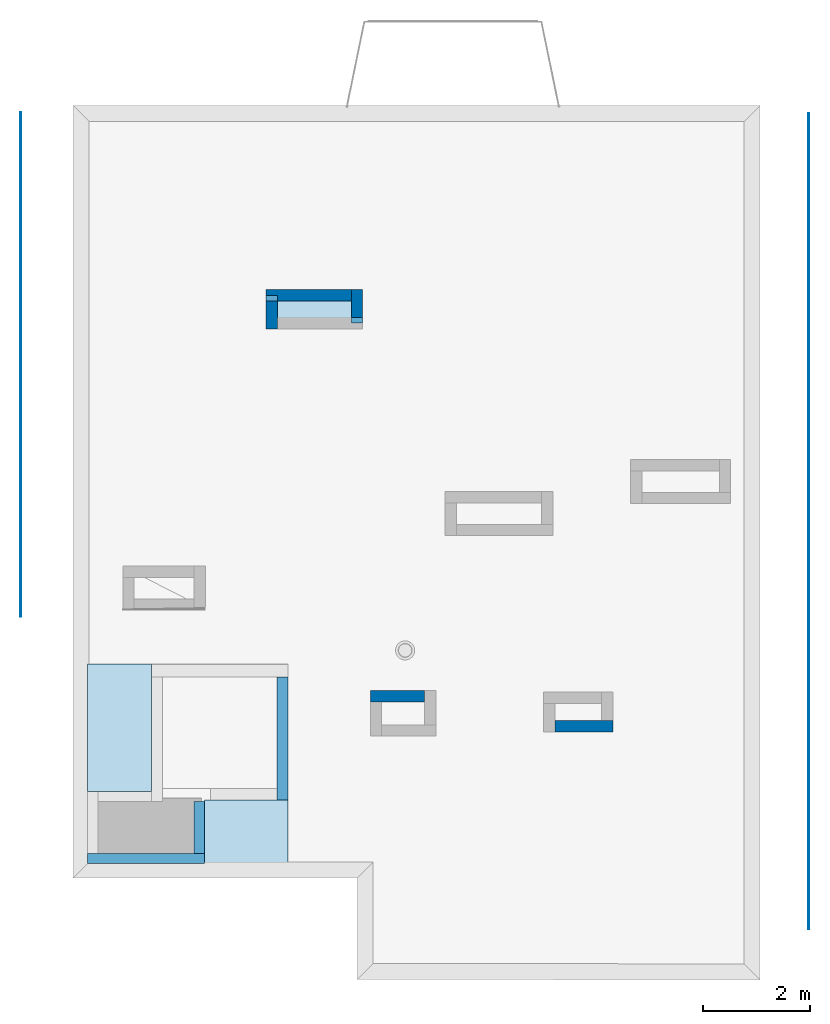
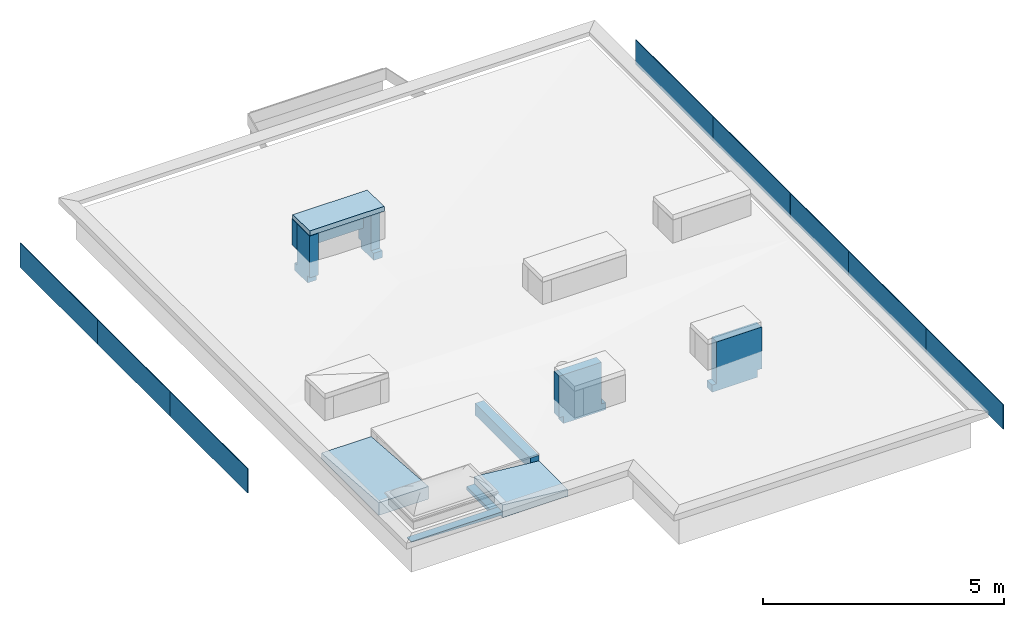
# One storey, part 2 of 6: 16 building element parts, 8 walls, 3 roofs, 2 elements without a shape of their own.
"""IFC2X3 building model written with IfcOpenShell, lengths in millimetres."""

from ifc_helpers import new_model, entity, si_unit, converted_unit, direction, frame, frame_2d, origin, origin_2d_with_axis, place, context, subcontext, project, spatial, rectangle, extrude, faceted_brep, material, layer, layer_set, type_object, element, aggregate, save


model = new_model("IFC2X3")

# Units and contexts
model_context = context("Model", 3, precision=0.01, world=origin(), true_north=direction((6.123233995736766e-17, 1.0)))
plan_context = context("Plan", 3, precision=0.01, world=origin(), true_north=direction((6.123233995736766e-17, 1.0)))
body_context = subcontext(model_context, "Body", "Model", "MODEL_VIEW")
ifc_project = project(units=[si_unit("LENGTHUNIT", "METRE", prefix="MILLI"), converted_unit("PLANEANGLEUNIT", "DEGREE", entity("IfcPlaneAngleMeasure", 0.017453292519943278), si_unit("PLANEANGLEUNIT", "RADIAN"), dimensions=[0, 0, 0, 0, 0, 0, 0]), si_unit("AREAUNIT", "SQUARE_METRE")], contexts=[model_context, plan_context])

# Site, building, storey
site_placement = place(None, origin())
site = spatial("IfcSite", under=ifc_project, at=site_placement, Name="Default", CompositionType="ELEMENT")
building_placement = place(site_placement, origin())
building = spatial("IfcBuilding", under=site, at=building_placement, CompositionType="ELEMENT")
storey_placement = place(building_placement, frame((0.0, 0.0, 16500.0)))
storey = spatial("IfcBuildingStorey", under=building, at=storey_placement, Name="Parapet", CompositionType="ELEMENT", Elevation=16499.999999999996)

# Walls
ifc_material_1 = material(Name="_K. Katusekate. Rullmaterjal. SBS")
ifc_layer_1 = layer(ifc_material_1, 10.0)
ifc_material_2 = material(Name="_K. Soojustus. Mineraalvill")
ifc_layer_2 = layer(ifc_material_2, 30.0)
ifc_material_3 = material(Name="_K. Soojustus. EPS")
ifc_layer_3 = layer(ifc_material_3, 170.0)
ifc_layer_set_1 = layer_set([ifc_layer_1, ifc_layer_2, ifc_layer_3], Name="Basic Wall:VS-liftimüts")
wall_type_1 = type_object("IfcWallType", Name="Basic Wall:VS-liftimüts", PredefinedType="STANDARD", material=ifc_layer_set_1)
wall_1_placement = place(storey_placement, frame((3444.9935349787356, 5189.9984336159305, -313.790204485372), z_axis=(0.0, 0.0, 1.0), x_axis=(0.0, -1.0, 0.0)))
element("IfcWall", 1, at=wall_1_placement, inside=storey, type_object=wall_type_1, Name="Basic Wall:VS-liftimüts", ObjectType="Basic Wall:VS-liftimüts", context=body_context, shape_type="Brep", body=[
    faceted_brep([(2290.0045776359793, -105.0, 303.79020448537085), (2080.0045776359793, -105.0, 303.79020448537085), (0.0, -105.0, 303.79020448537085), (0.0, -105.0, 148.79020448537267), (0.0, -105.0, 7.287625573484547), (1879.01675181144, -105.0, 7.287625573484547), (2080.0045776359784, -105.0, 14.32030109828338), (2290.0045776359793, -105.0, 21.668317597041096), (0.0, 105.0, 303.79020448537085), (2290.0045776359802, 105.0, 303.79020448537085), (2290.00457763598, 105.0, 21.668317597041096), (1670.742672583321, 105.0, 0.0), (0.0, 105.0, 0.0)], [[[0, 1, 2, 3, 4, 5, 6, 7]], [[8, 9, 10, 11, 12]], [[2, 1, 0, 9, 8]], [[2, 8, 12, 4, 3]], [[9, 0, 7, 10]], [[11, 5, 4, 12]], [[5, 11, 10, 7, 6]]]),
])
ifc_layer_4 = layer(ifc_material_1, 10.0)
ifc_layer_5 = layer(ifc_material_2, 100.0)
ifc_material_4 = material(Name="_K. Müüritis. Väikeplokk. Kergkruusplokk")
ifc_layer_6 = layer(ifc_material_4, 100.0)
ifc_layer_set_2 = layer_set([ifc_layer_4, ifc_layer_5, ifc_layer_6], Name="Basic Wall:VS-Šahtimüts")
wall_type_2 = type_object("IfcWallType", Name="Basic Wall:VS-Šahtimüts", PredefinedType="STANDARD", material=ifc_layer_set_2)
wall_2_placement = place(storey_placement, frame((3140.0, 12315.0, -326.7114315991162)))
element("IfcWall", 2, at=wall_2_placement, inside=storey, type_object=wall_type_2, Name="Basic Wall:VS-Šahtimüts", ObjectType="Basic Wall:VS-Šahtimüts", context=body_context, shape_type="Brep", body=[
    faceted_brep([(1590.0, -105.0, 666.7101660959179), (210.0, -105.0, 666.7101660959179), (10.0, -105.0, 666.7101660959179), (0.0, -105.0, 666.7101660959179), (0.0, -105.0, 6.051959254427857), (147.47030604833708, -105.0, 0.0), (210.0, -105.0, 0.0), (1110.0, -105.0, 0.0), (1590.0, -105.0, 0.0), (1590.0, -105.0, 652.3452344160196), (0.0, 105.0, 666.7101660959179), (1590.0, 105.0, 666.7101660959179), (1590.0, 105.0, 8.866606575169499), (0.0, 105.0, 8.86660657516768), (1590.0, 95.0, 666.7101660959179), (0.0, 38.33684850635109, 6.051959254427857)], [[[0, 1, 2, 3, 4, 5, 6, 7, 8, 9]], [[10, 11, 12, 13]], [[3, 2, 1, 0, 14, 11, 10]], [[11, 14, 0, 9, 8, 12]], [[15, 5, 4]], [[5, 15, 13, 12, 8, 7, 6]], [[3, 10, 13, 15, 4]]]),
])
wall_3_placement = place(storey_placement, frame((3245.0, 11690.0, -895.0012655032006), z_axis=(0.0, 0.0, 1.0), x_axis=(0.0, 1.0, 0.0)))
element("IfcWall", 3, at=wall_3_placement, inside=storey, type_object=wall_type_2, Name="Basic Wall:VS-Šahtimüts", ObjectType="Basic Wall:VS-Šahtimüts", context=body_context, shape_type="Brep", body=[
    faceted_brep([(86.0, -105.0, 0.0), (625.0, -105.0, 0.0), (625.0, -105.0, 180.99997782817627), (520.0, -105.0, 180.99997782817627), (520.0, -105.0, 1235.0), (210.0, -105.0, 1235.0), (0.0, -105.0, 1235.0), (0.0, -105.0, 180.99997782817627), (86.0, -105.0, 180.99997782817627), (86.0, 105.0, 0.0), (86.0, 105.0, 180.99997782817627), (0.0, 105.0, 180.99997782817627), (0.0, 105.0, 1235.0), (520.0, 105.0, 1235.0), (520.0, 105.0, 574.3417931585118), (520.0, 105.0, 180.99997782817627), (625.0, 105.0, 180.99997782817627), (625.0, 105.0, 0.0)], [[[0, 1, 2, 3, 4, 5, 6, 7, 8]], [[9, 10, 11, 12, 13, 14, 15, 16, 17]], [[1, 0, 9, 17]], [[6, 5, 4, 13, 12]], [[2, 1, 17, 16]], [[15, 3, 2, 16]], [[3, 15, 14, 13, 4]], [[0, 8, 10, 9]], [[7, 11, 10, 8]], [[6, 12, 11, 7]]]),
])
wall_4_placement = place(storey_placement, frame((4835.0, 12420.0, -895.0), z_axis=(0.0, 0.0, 1.0), x_axis=(0.0, -1.0, 0.0)))
element("IfcWall", 4, at=wall_4_placement, inside=storey, type_object=wall_type_2, Name="Basic Wall:VS-Šahtimüts", ObjectType="Basic Wall:VS-Šahtimüts", context=body_context, shape_type="Brep", body=[
    faceted_brep([(105.0, -105.0, 0.0), (625.0, -105.0, 0.0), (625.0, -105.0, 180.9987123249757), (520.0, -105.0, 180.9987123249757), (520.0, -105.0, 1235.0), (210.0, -105.0, 1235.0), (0.0, -105.0, 1235.0), (0.0, -105.0, 577.1551749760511), (0.0, -105.0, 180.9987123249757), (105.0, -105.0, 180.9987123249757), (105.0, 105.0, 0.0), (105.0, 105.0, 180.9987123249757), (0.0, 105.0, 180.9987123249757), (0.0, 105.0, 1235.0), (520.0, 105.0, 1235.0), (520.0, 105.0, 180.9987123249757), (625.0, 105.0, 180.9987123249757), (625.0, 105.0, 0.0)], [[[0, 1, 2, 3, 4, 5, 6, 7, 8, 9]], [[10, 11, 12, 13, 14, 15, 16, 17]], [[1, 0, 10, 17]], [[6, 5, 4, 14, 13]], [[0, 9, 11, 10]], [[8, 12, 11, 9]], [[2, 1, 17, 16]], [[15, 3, 2, 16]], [[3, 15, 14, 4]], [[6, 13, 12, 8, 7]]]),
])
wall_5_placement = place(storey_placement, frame((5084.997197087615, 4835.0, -895.0012655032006)))
element("IfcWall", 5, at=wall_5_placement, inside=storey, type_object=wall_type_2, Name="Basic Wall:VS-Šahtimüts", ObjectType="Basic Wall:VS-Šahtimüts", context=body_context, shape_type="Brep", body=[
    faceted_brep([(105.0, -105.0, 0.0), (1120.0, -105.0, 0.0), (1120.0, -105.0, 180.99997782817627), (1015.0, -105.0, 180.99997782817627), (1015.0, -105.0, 1235.0), (210.0, -105.0, 1235.0), (0.0, -105.0, 1235.0), (0.0, -105.0, 180.99997782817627), (105.0, -105.0, 180.99997782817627), (105.0, 105.0, 0.0), (105.0, 105.0, 180.99997782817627), (0.0, 105.0, 180.99997782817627), (0.0, 105.0, 1235.0), (1015.0, 105.0, 1235.0), (1015.0, 105.0, 180.99997782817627), (1120.0, 105.0, 180.99997782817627), (1120.0, 105.0, 0.0)], [[[0, 1, 2, 3, 4, 5, 6, 7, 8]], [[9, 10, 11, 12, 13, 14, 15, 16]], [[1, 0, 9, 16]], [[6, 5, 4, 13, 12]], [[0, 8, 10, 9]], [[7, 11, 10, 8]], [[6, 12, 11, 7]], [[2, 1, 16, 15]], [[14, 3, 2, 15]], [[3, 14, 13, 4]]]),
])
wall_6_placement = place(storey_placement, frame((9610.0, 4275.0, -895.0), z_axis=(0.0, 0.0, 1.0), x_axis=(-1.0, 0.0, 0.0)))
element("IfcWall", 6, at=wall_6_placement, inside=storey, type_object=wall_type_2, Name="Basic Wall:VS-Šahtimüts", ObjectType="Basic Wall:VS-Šahtimüts", context=body_context, shape_type="Brep", body=[
    faceted_brep([(105.0, -105.0, 0.0), (1187.0, -105.0, 0.0), (1187.0, -105.0, 180.9987123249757), (1082.0, -105.0, 180.9987123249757), (1082.0, -105.0, 1235.0), (210.0, -105.0, 1235.0), (0.0, -105.0, 1235.0), (0.0, -105.0, 180.9987123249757), (105.0, -105.0, 180.9987123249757), (105.0, 105.0, 0.0), (105.0, 105.0, 180.9987123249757), (0.0, 105.0, 180.9987123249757), (0.0, 105.0, 1235.0), (1082.0, 105.0, 1235.0), (1082.0, 105.0, 180.9987123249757), (1187.0, 105.0, 180.9987123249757), (1187.0, 105.0, 0.0)], [[[0, 1, 2, 3, 4, 5, 6, 7, 8]], [[9, 10, 11, 12, 13, 14, 15, 16]], [[1, 0, 9, 16]], [[6, 5, 4, 13, 12]], [[2, 1, 16, 15]], [[0, 8, 10, 9]], [[3, 14, 13, 4]], [[6, 12, 11, 7]], [[14, 3, 2, 15]], [[7, 11, 10, 8]]]),
])
ifc_layer_7 = layer(ifc_material_4, 190.00000000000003)
ifc_layer_set_3 = layer_set([ifc_layer_7], Name="Basic Wall:SL")
wall_type_3 = type_object("IfcWallType", Name="Basic Wall:SL", PredefinedType="STANDARD", material=ifc_layer_set_3)
wall_7_placement = place(storey_placement, frame((1990.0, 1804.9697985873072, -257.1304903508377), z_axis=(0.0, 0.0, 1.0), x_axis=(-1.0, 0.0, 0.0)))
element("IfcWall", 7, at=wall_7_placement, inside=storey, type_object=wall_type_3, Name="Basic Wall:SL", ObjectType="Basic Wall:SL", context=body_context, shape_type="Brep", body=[
    faceted_brep([(2180.0, -95.0, 92.13049035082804), (1990.0, -95.0, 92.13049035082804), (190.0, -95.0, 92.13049035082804), (0.0, -95.0, 92.13049035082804), (0.0, -95.0, 0.0), (72.71108853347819, -95.0, 0.0), (190.0, -95.0, 4.070274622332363), (1990.0, -95.0, 66.53563668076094), (2180.0, -95.0, 73.12920267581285), (0.0, 95.0, 92.13049035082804), (2180.0, 95.0, 92.13049035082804), (2180.0, 95.0, 73.12920267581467), (264.2551244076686, 95.0, 6.648205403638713), (0.0, 95.0, 6.648205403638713)], [[[0, 1, 2, 3, 4, 5, 6, 7, 8]], [[9, 10, 11, 12, 13]], [[3, 2, 1, 0, 10, 9]], [[10, 0, 8, 11]], [[3, 9, 13, 4]], [[5, 12, 11, 8, 7, 6]], [[12, 5, 4, 13]]]),
])
wall_8_placement = place(storey_placement, frame((1895.0, 2870.030201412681, -259.65378172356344), z_axis=(0.0, 0.0, 1.0), x_axis=(0.0, -1.0, 0.0)))
element("IfcWall", 8, at=wall_8_placement, inside=storey, type_object=wall_type_3, Name="Basic Wall:SL", ObjectType="Basic Wall:SL", context=body_context, shape_type="Brep", body=[
    faceted_brep([(970.0604028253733, -95.0, 94.65378172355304), (0.0, -95.0, 94.65378172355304), (0.0, -95.0, 6.593565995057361), (70.03020141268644, -95.0, 6.593565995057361), (970.0604028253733, -95.0, 6.593565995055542), (0.0, 95.0, 94.65378172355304), (970.0604028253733, 95.0, 94.65378172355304), (970.0604028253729, 95.0, 2.523291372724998), (897.9469027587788, 95.0, 0.0), (0.0, 95.0, 0.0), (970.0604028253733, 22.288911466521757, 2.523291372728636)], [[[0, 1, 2, 3, 4]], [[5, 6, 7, 8, 9]], [[1, 0, 6, 5]], [[1, 5, 9, 2]], [[6, 0, 4, 10, 7]], [[8, 10, 4, 3, 2, 9]], [[10, 8, 7]]]),
])

# Roofs
ifc_layer_8 = layer(ifc_material_1, 10.0)
ifc_layer_9 = layer(ifc_material_2, 100.0)
ifc_material_5 = material(Name="_K. Ehitusplaat. Vineer. Veekindel")
ifc_layer_10 = layer(ifc_material_5, 15.0)
ifc_layer_set_4 = layer_set([ifc_layer_8, ifc_layer_9, ifc_layer_10], Name="Basic Roof:KL-01 müts")
type_product_1 = type_object("IfcTypeProduct", Name="Basic Roof:KL-01 müts")
roof_1_placement = place(storey_placement, frame((3150.0, 11700.0, 320.0)))
element("IfcRoof", 9, at=roof_1_placement, inside=storey, type_object=type_product_1, material=ifc_layer_set_4, Name="Basic Roof:KL-01 müts", ObjectType="Basic Roof:KL-01 müts", ShapeType="NOTDEFINED", context=body_context, shape_type="Brep", body=[
    faceted_brep([(1779.9727515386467, 710.0, 125.0), (1779.9727515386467, 710.0, 0.0), (1580.0, 710.0, 0.0), (1580.0, 710.0, 19.998734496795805), (0.0, 710.0, 19.998734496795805), (0.0, 710.0, 125.0), (0.0, 0.0, 20.0), (0.0, 0.0, 145.0), (0.0, 510.0, 19.998734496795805), (0.0, 510.0, 5.633802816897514), (200.0, 0.0, 20.0), (1779.9727515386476, 0.0, 20.0), (1779.9727515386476, 0.0, 145.0), (1779.9727515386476, 200.0, 20.0), (1779.9727515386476, 200.0, 14.36619718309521), (200.0, 200.0, 14.36619718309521), (1580.0, 510.0, 5.633802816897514), (1580.0, 510.0, 19.998734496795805), (200.0, 200.0, 20.0)], [[[0, 1, 2, 3, 4, 5]], [[6, 7, 5, 4, 8, 9]], [[7, 6, 10, 11, 12]], [[1, 0, 12, 11, 13, 14]], [[5, 7, 12, 0]], [[2, 1, 14, 15, 10, 6, 9, 16]], [[8, 17, 16, 9]], [[17, 8, 4, 3]], [[16, 17, 3, 2]], [[13, 18, 15, 14]], [[10, 18, 13, 11]], [[18, 10, 15]]]),
])
ifc_layer_11 = layer(ifc_material_1, 10.0)
ifc_layer_12 = layer(ifc_material_2, 30.0)
ifc_layer_13 = layer(ifc_material_3, 250.00000000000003)
ifc_layer_14 = layer(ifc_material_3, 30.0)
ifc_layer_set_5 = layer_set([ifc_layer_11, ifc_layer_12, ifc_layer_13, ifc_layer_14], Name="Basic Roof:KL-05 3")
type_product_2 = type_object("IfcTypeProduct", Name="Basic Roof:KL-05 3")
roof_2_placement = place(storey_placement, frame((-190.0, 3060.0, -320.0)))
element("IfcRoof", 10, at=roof_2_placement, inside=storey, type_object=type_product_2, material=ifc_layer_set_5, Name="Basic Roof:KL-05 3", ObjectType="Basic Roof:KL-05 3", ShapeType="NOTDEFINED", context=body_context, shape_type="Brep", body=[
    faceted_brep([(0.0, 2374.995381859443, 0.0), (1189.9935349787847, 2374.995381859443, 0.0), (1189.9935349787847, 0.0, 0.0), (0.0, 0.0, 0.0), (1189.9935349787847, 2374.995381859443, 140.0), (1189.9935349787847, 2374.995381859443, 94.70239176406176), (0.0, 2374.995381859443, 135.99871232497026), (0.0, 2374.995381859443, 140.0), (1189.9935349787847, 0.0, 320.0), (1189.9935349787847, 0.0, 310.0), (1189.9935349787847, 0.0, 155.0), (1189.9935349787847, 0.0, 94.70239176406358), (1189.9935349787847, 40.0, 316.96841515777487), (0.0, 0.0, 320.0), (0.0, 0.0, 155.0), (0.0, 0.0, 135.99871232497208), (0.0, 40.0, 316.96841515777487)], [[[0, 1, 2, 3]], [[4, 5, 1, 0, 6, 7]], [[8, 9, 10, 11, 2, 1, 5, 4, 12]], [[13, 14, 15, 3, 2, 11, 10, 9, 8]], [[7, 6, 0, 3, 15, 14, 13, 16]], [[7, 16, 13, 8, 12, 4]]]),
])
roof_3_placement = place(storey_placement, frame((1990.0, 1710.0, -320.0)))
element("IfcRoof", 11, at=roof_3_placement, inside=storey, type_object=type_product_2, material=ifc_layer_set_5, Name="Basic Roof:KL-05 3", ObjectType="Basic Roof:KL-05 3", ShapeType="NOTDEFINED", context=body_context, shape_type="Brep", body=[
    faceted_brep([(0.0, 1189.993855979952, 0.0), (110.0, 1189.993855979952, 0.0), (1349.9935349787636, 1189.993855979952, 0.0), (1559.9935349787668, 1189.993855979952, 0.0), (1559.9935349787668, 0.0, 0.0), (0.0, 0.0, 0.0), (1559.9935349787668, 1189.993855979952, 170.0), (1559.9935349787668, 1189.993855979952, 27.878113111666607), (0.0, 1189.993855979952, 60.34621827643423), (0.0, 1189.993855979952, 155.0), (0.0, 1189.993855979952, 320.0), (110.0, 1189.993855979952, 309.42303308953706), (0.0, 0.0, 69.51665828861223), (0.0, 0.0, 155.0), (0.0, 0.0, 320.0), (1559.9935349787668, 0.0, 69.51665828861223), (1559.9935349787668, 0.0, 170.0), (110.0, 0.0, 309.4230330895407)], [[[0, 1, 2, 3, 4, 5]], [[6, 7, 3, 2, 1, 0, 8, 9, 10, 11]], [[10, 9, 8, 0, 5, 12, 13, 14]], [[14, 13, 12, 5, 4, 15, 16, 17]], [[16, 15, 4, 3, 7, 6]], [[10, 14, 17, 16, 6, 11]]]),
])

# Wall, building element parts
wall_type_4 = type_object("IfcWallType", Name="Basic Wall:VS-komposiit", PredefinedType="STANDARD")
wall_9_placement = place(storey_placement, frame((13265.061891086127, 15711.857174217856, -1288.999999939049), z_axis=(0.0, 0.0, 1.0), x_axis=(0.0, -1.0, 0.0)))
wall_9 = element("IfcWall", 12, at=wall_9_placement, inside=storey, type_object=wall_type_4, Name="Basic Wall:VS-komposiit", ObjectType="Basic Wall:VS-komposiit")
ifc_material_6 = material(Name="_K. Välisviimistlus. Alumiinium-komposiitplaat")
building_element_part_1_placement = place(wall_9_placement, origin())
building_element_part_1 = element("IfcBuildingElementPart", 13, at=building_element_part_1_placement, material=ifc_material_6, Name="Part", context=body_context, shape_type="SweptSolid", body=[
    extrude(rectangle(XDim=3200.0000000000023, YDim=3.999999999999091, at=frame_2d((1.1368683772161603e-12, -1.0829115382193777e-12), x_axis=(1.0, 0.0))), frame((1600.0, 8.0, 0.0)), (0.0, 0.0, 1.0), 614.9999999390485),
])
ifc_material_7 = material(Name="_K. Õhk. Roov. Fassaadikatte alusroov. Horisontaalne. 25 mm")
building_element_part_2_placement = place(wall_9_placement, origin())
building_element_part_2 = element("IfcBuildingElementPart", 14, at=building_element_part_2_placement, material=ifc_material_7, Name="Part", context=body_context, shape_type="SweptSolid", body=[
    extrude(rectangle(XDim=3200.0000000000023, YDim=16.000000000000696, at=frame_2d((1.1368683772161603e-12, 1.0826894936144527e-12), x_axis=(1.0, 0.0))), frame((1600.0, -2.0, 0.0)), (0.0, 0.0, 1.0), 614.9999999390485),
])
building_element_part_3_placement = place(wall_9_placement, origin())
building_element_part_3 = element("IfcBuildingElementPart", 15, at=building_element_part_3_placement, material=ifc_material_7, Name="Part", context=body_context, shape_type="SweptSolid", body=[
    extrude(rectangle(XDim=3200.000000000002, YDim=16.000000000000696, at=frame_2d((2.2737367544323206e-13, 1.0826894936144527e-12), x_axis=(1.0, 0.0))), frame((13623.714348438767, -2.0, 0.0)), (0.0, 0.0, 1.0), 614.9999999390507),
])
building_element_part_4_placement = place(wall_9_placement, origin())
building_element_part_4 = element("IfcBuildingElementPart", 16, at=building_element_part_4_placement, material=ifc_material_7, Name="Part", context=body_context, shape_type="SweptSolid", body=[
    extrude(rectangle(XDim=3199.999999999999, YDim=16.000000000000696, at=frame_2d((1.9326762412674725e-12, 1.0826894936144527e-12), x_axis=(1.0, 0.0))), frame((10418.714348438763, -2.0, 0.0)), (0.0, 0.0, 1.0), 614.9999999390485),
])
building_element_part_5_placement = place(wall_9_placement, origin())
building_element_part_5 = element("IfcBuildingElementPart", 17, at=building_element_part_5_placement, material=ifc_material_7, Name="Part", context=body_context, shape_type="SweptSolid", body=[
    extrude(rectangle(XDim=2403.7143484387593, YDim=16.000000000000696, at=frame_2d((1.5916157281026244e-12, -1.0835776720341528e-12), x_axis=(1.0, 0.0))), frame((7611.857174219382, -2.0, 0.0)), (0.0, 0.0, 1.0), 614.9999999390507),
])
building_element_part_6_placement = place(wall_9_placement, origin())
building_element_part_6 = element("IfcBuildingElementPart", 18, at=building_element_part_6_placement, material=ifc_material_7, Name="Part", context=body_context, shape_type="SweptSolid", body=[
    extrude(rectangle(XDim=3200.0, YDim=16.00000000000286, at=frame_2d((2.7284841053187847e-12, 0.0), x_axis=(1.0, 0.0))), frame((4805.0, -2.0, 0.0)), (0.0, 0.0, 1.0), 614.9999999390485),
])
building_element_part_7_placement = place(wall_9_placement, origin())
building_element_part_7 = element("IfcBuildingElementPart", 19, at=building_element_part_7_placement, material=ifc_material_6, Name="Part", context=body_context, shape_type="SweptSolid", body=[
    extrude(rectangle(XDim=3200.000000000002, YDim=3.999999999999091, at=frame_2d((2.2737367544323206e-13, -1.0829115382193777e-12), x_axis=(1.0, 0.0))), frame((13623.714348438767, 8.0, 0.0)), (0.0, 0.0, 1.0), 614.9999999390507),
])
building_element_part_8_placement = place(wall_9_placement, origin())
building_element_part_8 = element("IfcBuildingElementPart", 20, at=building_element_part_8_placement, material=ifc_material_6, Name="Part", context=body_context, shape_type="SweptSolid", body=[
    extrude(rectangle(XDim=3200.0, YDim=3.999999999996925, at=frame_2d((1.0231815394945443e-12, 0.0), x_axis=(1.0, 0.0))), frame((10418.714348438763, 8.0, 0.0)), (0.0, 0.0, 1.0), 614.9999999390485),
])
building_element_part_9_placement = place(wall_9_placement, origin())
building_element_part_9 = element("IfcBuildingElementPart", 21, at=building_element_part_9_placement, material=ifc_material_6, Name="Part", context=body_context, shape_type="SweptSolid", body=[
    extrude(rectangle(XDim=2403.71434843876, YDim=3.999999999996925, at=frame_2d((1.5916157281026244e-12, 0.0), x_axis=(1.0, 0.0))), frame((7611.857174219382, 8.0, 0.0)), (0.0, 0.0, 1.0), 614.9999999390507),
])
building_element_part_10_placement = place(wall_9_placement, origin())
building_element_part_10 = element("IfcBuildingElementPart", 22, at=building_element_part_10_placement, material=ifc_material_6, Name="Part", context=body_context, shape_type="SweptSolid", body=[
    extrude(rectangle(XDim=3200.0000000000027, YDim=3.999999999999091, at=frame_2d((2.7284841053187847e-12, 1.0829115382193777e-12), x_axis=(1.0, 0.0))), frame((4805.0, 8.0, 0.0)), (0.0, 0.0, 1.0), 614.9999999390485),
])
aggregate(wall_9, [building_element_part_1, building_element_part_2, building_element_part_3, building_element_part_4, building_element_part_5, building_element_part_6, building_element_part_7, building_element_part_8, building_element_part_9, building_element_part_10])

wall_10_placement = place(storey_placement, frame((-1441.0, 15734.235401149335, -1288.9999999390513), z_axis=(0.0, 0.0, 1.0), x_axis=(0.0, -1.0, 0.0)))
wall_10 = element("IfcWall", 23, at=wall_10_placement, inside=storey, type_object=wall_type_4, Name="Basic Wall:VS-komposiit", ObjectType="Basic Wall:VS-komposiit")
building_element_part_11_placement = place(wall_10_placement, origin())
building_element_part_11 = element("IfcBuildingElementPart", 24, at=building_element_part_11_placement, material=ifc_material_6, Name="Part", context=body_context, shape_type="SweptSolid", body=[
    extrude(rectangle(XDim=3199.999999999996, YDim=4.000000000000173, at=origin_2d_with_axis()), frame((7818.49811917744, -8.0, 0.0)), (0.0, 0.0, 1.0), 615.0000000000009),
])
building_element_part_12_placement = place(wall_10_placement, origin())
building_element_part_12 = element("IfcBuildingElementPart", 25, at=building_element_part_12_placement, material=ifc_material_7, Name="Part", context=body_context, shape_type="SweptSolid", body=[
    extrude(rectangle(XDim=3199.999999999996, YDim=15.999999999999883, at=frame_2d((0.0, -1.354472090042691e-13), x_axis=(1.0, 0.0))), frame((7818.49811917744, 2.0, 0.0)), (0.0, 0.0, 1.0), 615.0000000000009),
])
building_element_part_13_placement = place(wall_10_placement, origin())
building_element_part_13 = element("IfcBuildingElementPart", 26, at=building_element_part_13_placement, material=ifc_material_7, Name="Part", context=body_context, shape_type="SweptSolid", body=[
    extrude(rectangle(XDim=3200.0000000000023, YDim=15.999999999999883, at=frame_2d((1.1368683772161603e-12, -1.354472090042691e-13), x_axis=(1.0, 0.0))), frame((1600.0, 2.0, 0.0)), (0.0, 0.0, 1.0), 615.0000000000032),
])
building_element_part_14_placement = place(wall_10_placement, origin())
building_element_part_14 = element("IfcBuildingElementPart", 27, at=building_element_part_14_placement, material=ifc_material_7, Name="Part", context=body_context, shape_type="SweptSolid", body=[
    extrude(rectangle(XDim=3008.4981191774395, YDim=15.999999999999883, at=frame_2d((0.0, -2.7045032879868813e-13), x_axis=(1.0, 0.0))), frame((4709.249059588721, 2.0, 0.0)), (0.0, 0.0, 1.0), 615.0000000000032),
])
building_element_part_15_placement = place(wall_10_placement, origin())
building_element_part_15 = element("IfcBuildingElementPart", 28, at=building_element_part_15_placement, material=ifc_material_6, Name="Part", context=body_context, shape_type="SweptSolid", body=[
    extrude(rectangle(XDim=3200.0000000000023, YDim=4.000000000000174, at=frame_2d((-1.1368683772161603e-12, -1.354472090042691e-13), x_axis=(1.0, 0.0))), frame((1600.0, -8.0, 0.0)), (0.0, 0.0, 1.0), 615.0000000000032),
])
building_element_part_16_placement = place(wall_10_placement, origin())
building_element_part_16 = element("IfcBuildingElementPart", 29, at=building_element_part_16_placement, material=ifc_material_6, Name="Part", context=body_context, shape_type="SweptSolid", body=[
    extrude(rectangle(XDim=3008.4981191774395, YDim=3.9999999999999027, at=origin_2d_with_axis()), frame((4709.249059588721, -8.0, 0.0)), (0.0, 0.0, 1.0), 615.0000000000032),
])
aggregate(wall_10, [building_element_part_11, building_element_part_12, building_element_part_13, building_element_part_14, building_element_part_15, building_element_part_16])

save(model, "model.ifc")
